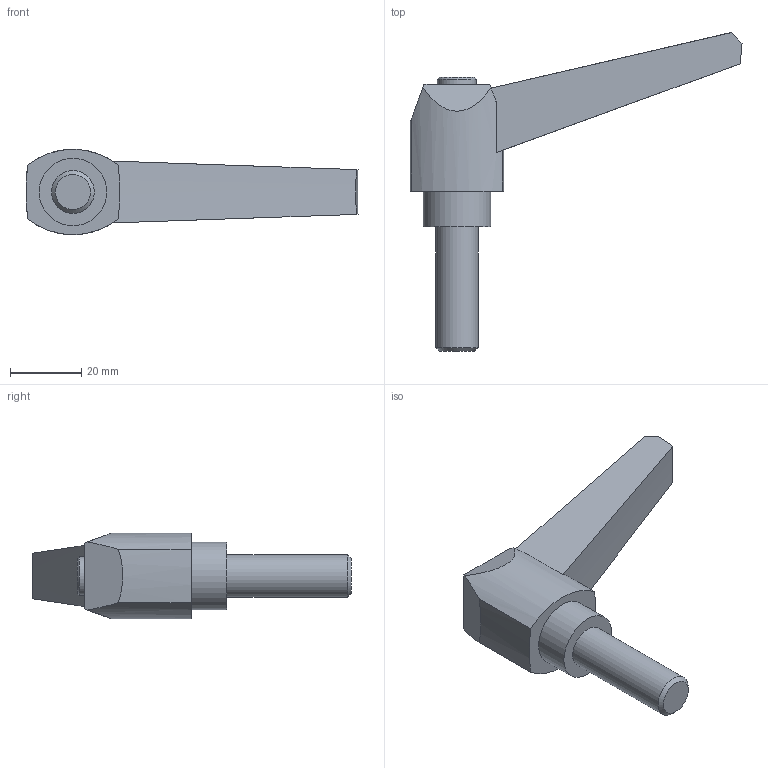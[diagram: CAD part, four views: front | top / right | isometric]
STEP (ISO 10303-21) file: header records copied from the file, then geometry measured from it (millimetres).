
FILE_DESCRIPTION( ( 'STEP AP203' ), '1' );
FILE_NAME( 'C:/Temp/Ganter_Step_05_03_2020/data/2_1/gn_500/gn_500_ms/Adjustable hand lever GN 500-80-M12-35-SW.stp', '2020-03-05T11:26:38', ( 'License CC BY-ND 4.0' ), ( 'CADENAS' ), ' ', 'PARTsolutions', ' ' );
FILE_SCHEMA( ( 'CONFIG_CONTROL_DESIGN' ) );
Length unit declared in the file: millimetre
Products named in the file (1): _Adjustable hand lever GN 500-80-M12-35-SW
Bounding box: 93.3 x 89.58 x 24 mm (x, y, z)
Volume: 36691.2 mm3; surface area: 9194.2 mm2
Topology: 1 solids, 1 shells, 24 faces, 56 edges, 37 vertices
Faces by surface type: plane 11, cylinder 7, cone 6
Full cylindrical faces by diameter (mm): 11 x1, 12 x1, 19 x1
Entity records: 709 total; most frequent: CARTESIAN_POINT 124, DIRECTION 118, ORIENTED_EDGE 100, EDGE_CURVE 50, AXIS2_PLACEMENT_3D 47, VERTEX_POINT 36, EDGE_LOOP 32, FACE_OUTER_BOUND 27
